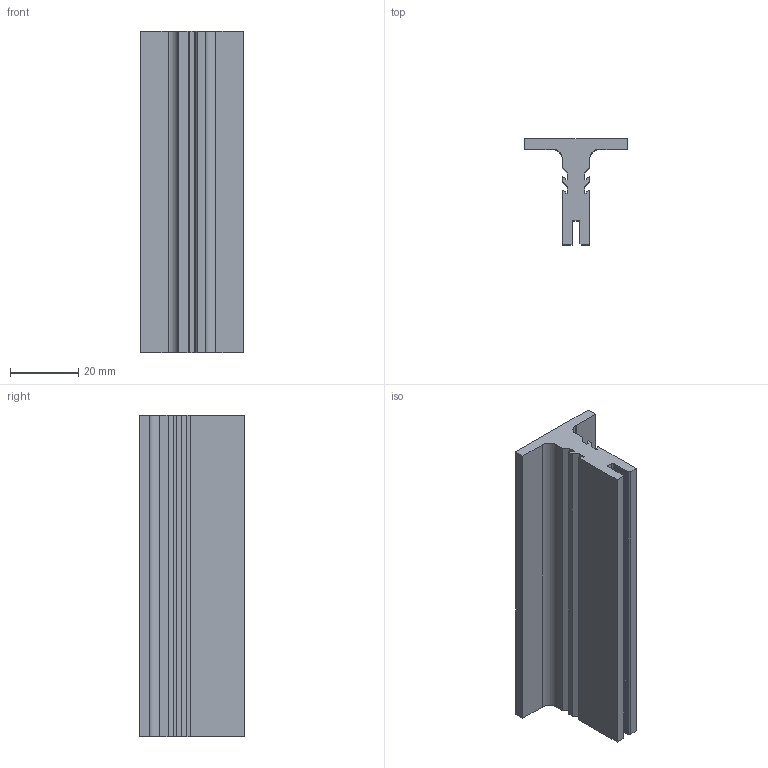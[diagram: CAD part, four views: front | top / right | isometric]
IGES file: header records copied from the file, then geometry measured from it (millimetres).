
Start section: SolidWorks IGES FILE using analytic representation for surfaces
Global section: file name: N:\SolidWork\Gewinde\PR 116_94_SE_M3.IGS; native system: SolidWorks 2003 by SolidWorks Corporation; preprocessor: Version 5.3; author: AK38; date: 040402.141417; units: millimetre
Bounding box: 30 x 31 x 94 mm (x, y, z)
Surface area: 15014.9 mm2 (no closed solid volume)
Topology: 0 solids, 0 shells, 122 faces, 760 edges, 760 vertices
Faces by surface type: bspline 118, revolution 4
